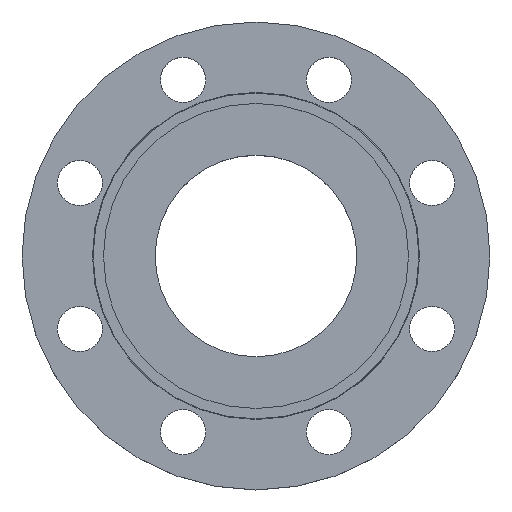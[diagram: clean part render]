
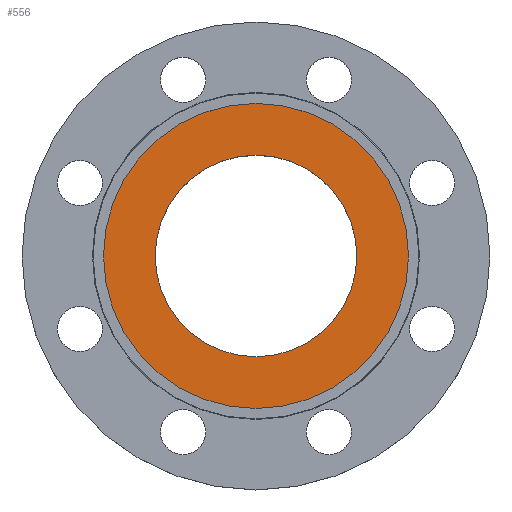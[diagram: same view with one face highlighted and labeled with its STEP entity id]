
A CAD part, top view. The second image highlights one B-rep face of the part: STEP entity #556.
In plain terms, the highlighted planar face has unit normal (0, 0, 1).
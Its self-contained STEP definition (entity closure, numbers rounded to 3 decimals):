
#39 = CARTESIAN_POINT ( 'NONE',  ( -88., 0., -4.5 ) ) ;
#112 = EDGE_CURVE ( 'NONE', #644, #645, #817, .T. ) ;
#119 = AXIS2_PLACEMENT_3D ( 'NONE', #320, #317, #316 ) ;
#162 = DIRECTION ( 'NONE',  ( -1., 0., 0. ) ) ;
#163 = DIRECTION ( 'NONE',  ( 0., 0., -1. ) ) ;
#164 = CARTESIAN_POINT ( 'NONE',  ( 0., 0., -4.5 ) ) ;
#167 = CARTESIAN_POINT ( 'NONE',  ( 88., 0., -4.5 ) ) ;
#208 = DIRECTION ( 'NONE',  ( -1., 0., 0. ) ) ;
#209 = DIRECTION ( 'NONE',  ( 0., 0., -1. ) ) ;
#210 = CARTESIAN_POINT ( 'NONE',  ( 0., 0., -4.5 ) ) ;
#237 = CIRCLE ( 'NONE', #547, 88. ) ;
#308 = CARTESIAN_POINT ( 'NONE',  ( 58.17, 0., -4.5 ) ) ;
#309 = CARTESIAN_POINT ( 'NONE',  ( -58.17, 0., -4.5 ) ) ;
#316 = DIRECTION ( 'NONE',  ( 1., 0., 0. ) ) ;
#317 = DIRECTION ( 'NONE',  ( 0., 0., 1. ) ) ;
#320 = CARTESIAN_POINT ( 'NONE',  ( 0., 0., -4.5 ) ) ;
#376 = DIRECTION ( 'NONE',  ( 1., 0., 0. ) ) ;
#378 = DIRECTION ( 'NONE',  ( 0., 0., 1. ) ) ;
#380 = CARTESIAN_POINT ( 'NONE',  ( 88., 0., -4.5 ) ) ;
#381 = PLANE ( 'NONE',  #1007 ) ;
#382 = FACE_OUTER_BOUND ( 'NONE', #830, .T. ) ;
#383 = FACE_BOUND ( 'NONE', #653, .T. ) ;
#419 = AXIS2_PLACEMENT_3D ( 'NONE', #210, #209, #208 ) ;
#544 = CIRCLE ( 'NONE', #419, 88. ) ;
#547 = AXIS2_PLACEMENT_3D ( 'NONE', #164, #163, #162 ) ;
#556 = ADVANCED_FACE ( 'NONE', ( #383, #382 ), #381, .T. ) ;
#588 = CIRCLE ( 'NONE', #119, 58.17 ) ;
#613 = EDGE_CURVE ( 'NONE', #645, #644, #588, .T. ) ;
#644 = VERTEX_POINT ( 'NONE', #309 ) ;
#645 = VERTEX_POINT ( 'NONE', #308 ) ;
#652 = AXIS2_PLACEMENT_3D ( 'NONE', #734, #735, #736 ) ;
#653 = EDGE_LOOP ( 'NONE', ( #1012, #1013 ) ) ;
#734 = CARTESIAN_POINT ( 'NONE',  ( 0., 0., -4.5 ) ) ;
#735 = DIRECTION ( 'NONE',  ( 0., 0., 1. ) ) ;
#736 = DIRECTION ( 'NONE',  ( 1., 0., 0. ) ) ;
#788 = EDGE_CURVE ( 'NONE', #827, #1073, #544, .T. ) ;
#817 = CIRCLE ( 'NONE', #652, 58.17 ) ;
#827 = VERTEX_POINT ( 'NONE', #167 ) ;
#830 = EDGE_LOOP ( 'NONE', ( #1015, #1019 ) ) ;
#831 = EDGE_CURVE ( 'NONE', #1073, #827, #237, .T. ) ;
#1007 = AXIS2_PLACEMENT_3D ( 'NONE', #380, #378, #376 ) ;
#1012 = ORIENTED_EDGE ( 'NONE', *, *, #613, .F. ) ;
#1013 = ORIENTED_EDGE ( 'NONE', *, *, #112, .F. ) ;
#1015 = ORIENTED_EDGE ( 'NONE', *, *, #831, .F. ) ;
#1019 = ORIENTED_EDGE ( 'NONE', *, *, #788, .F. ) ;
#1073 = VERTEX_POINT ( 'NONE', #39 ) ;
